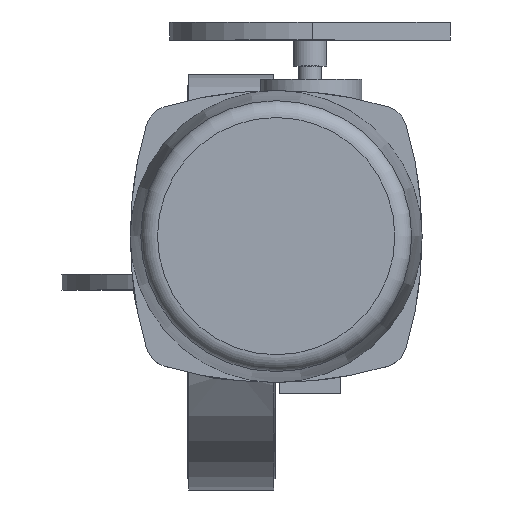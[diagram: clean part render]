
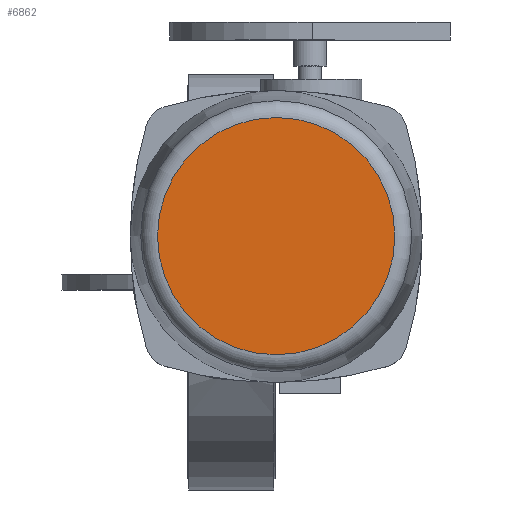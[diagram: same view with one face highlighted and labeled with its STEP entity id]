
A CAD part, top view. The second image highlights one B-rep face of the part: STEP entity #6862.
In plain terms, the highlighted planar face has unit normal (0, 0, 1).
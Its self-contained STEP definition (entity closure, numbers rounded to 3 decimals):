
#6862=ADVANCED_FACE('',(#12739),#12741,.T.);
#12739=FACE_BOUND('',#12740,.T.);
#12740=EDGE_LOOP('',(#17046));
#12741=PLANE('',#12742);
#12742=AXIS2_PLACEMENT_3D('',#12743,#12744,#12745);
#12743=CARTESIAN_POINT('',(40.,40.,660.));
#12744=DIRECTION('',(0.,0.,1.));
#12745=DIRECTION('',(-1.,0.,0.));
#17046=ORIENTED_EDGE('',*,*,#19228,.T.);
#19228=EDGE_CURVE('',#22831,#22831,#22832,.T.);
#22831=VERTEX_POINT('',#33227);
#22832=CIRCLE('',#33228,105.699);
#33227=CARTESIAN_POINT('',(-65.699,40.,660.));
#33228=AXIS2_PLACEMENT_3D('',#33229,#33230,#33231);
#33229=CARTESIAN_POINT('',(40.,40.,660.));
#33230=DIRECTION('',(0.,0.,1.));
#33231=DIRECTION('',(-1.,0.,0.));
